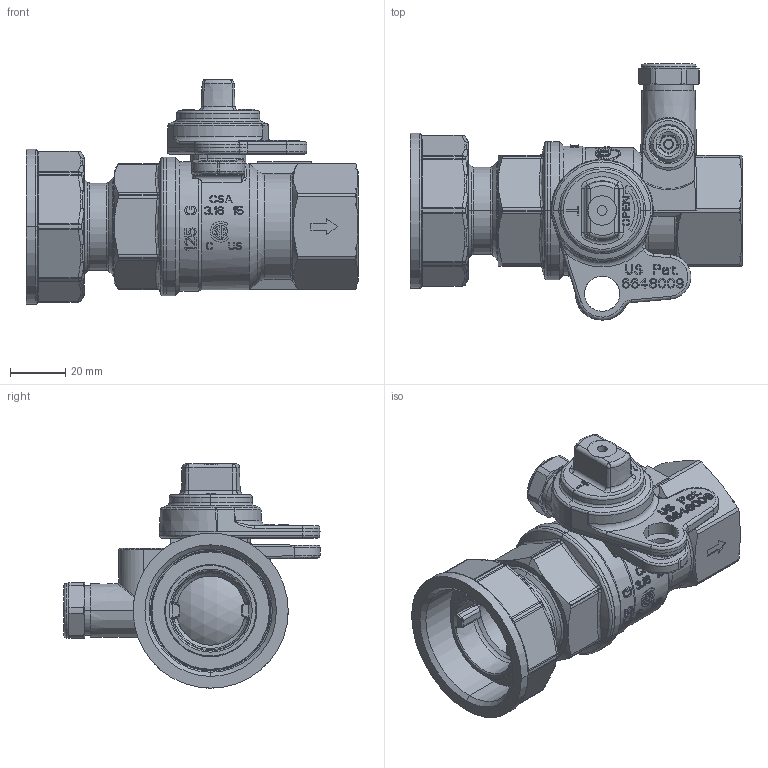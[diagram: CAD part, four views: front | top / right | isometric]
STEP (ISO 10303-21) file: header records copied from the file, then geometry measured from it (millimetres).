
FILE_DESCRIPTION(('Open CASCADE Model'),'2;1');
FILE_NAME('Open CASCADE Shape Model','2021-11-30T12:07:09',('Author'),( 'Open CASCADE'),'Open CASCADE STEP processor 7.3','Open CASCADE 7.3' ,'Unknown');
FILE_SCHEMA(('AUTOMOTIVE_DESIGN { 1 0 10303 214 1 1 1 1 }'));
Length unit declared in the file: millimetre
Products named in the file (20): Open CASCADE STEP translator 7.3 1; Open CASCADE STEP translator 7.3 1.1; Open CASCADE STEP translator 7.3 1.2; Open CASCADE STEP translator 7.3 1.3; Open CASCADE STEP translator 7.3 1.4; Open CASCADE STEP translator 7.3 1.5; Open CASCADE STEP translator 7.3 1.6; Open CASCADE STEP translator 7.3 1.7; Open CASCADE STEP translator 7.3 1.8; Open CASCADE STEP translator 7.3 1.9; Open CASCADE STEP translator 7.3 1.10; Open CASCADE STEP translator 7.3 1.11; Open CASCADE STEP translator 7.3 1.12; Open CASCADE STEP translator 7.3 1.13; Open CASCADE STEP translator 7.3 1.14; Open CASCADE STEP translator 7.3 1.15; Open CASCADE STEP translator 7.3 1.16; Open CASCADE STEP translator 7.3 1.17; Open CASCADE STEP translator 7.3 1.18; Open CASCADE STEP translator 7.3 1.19
Assembly tree (19 placements, depth 2):
  Open CASCADE STEP translator 7.3 1
    Open CASCADE STEP translator 7.3 1.1
    Open CASCADE STEP translator 7.3 1.2
    Open CASCADE STEP translator 7.3 1.3
    Open CASCADE STEP translator 7.3 1.4
    Open CASCADE STEP translator 7.3 1.5
    Open CASCADE STEP translator 7.3 1.6
    Open CASCADE STEP translator 7.3 1.7
    Open CASCADE STEP translator 7.3 1.8
    Open CASCADE STEP translator 7.3 1.9
    Open CASCADE STEP translator 7.3 1.10
    Open CASCADE STEP translator 7.3 1.11
    Open CASCADE STEP translator 7.3 1.12
    Open CASCADE STEP translator 7.3 1.13
    Open CASCADE STEP translator 7.3 1.14
    Open CASCADE STEP translator 7.3 1.15
    Open CASCADE STEP translator 7.3 1.16
    Open CASCADE STEP translator 7.3 1.17
    Open CASCADE STEP translator 7.3 1.18
    Open CASCADE STEP translator 7.3 1.19
Bounding box: 119.9 x 92.5 x 81 mm (x, y, z)
Volume: 133946.3 mm3; surface area: 79146.1 mm2
Topology: 19 solids, 19 shells, 2541 faces, 6647 edges, 4237 vertices
Faces by surface type: plane 1240, extrusion 335, cylinder 332, bspline 227, cone 198, torus 160, sphere 33, revolution 16
Entity records: 213940 total; most frequent: CARTESIAN_POINT 90639, DIRECTION 19311, ORIENTED_EDGE 13286, PCURVE 13286, DEFINITIONAL_REPRESENTATION 13286, VECTOR 12325, LINE 11990, EDGE_CURVE 6643
